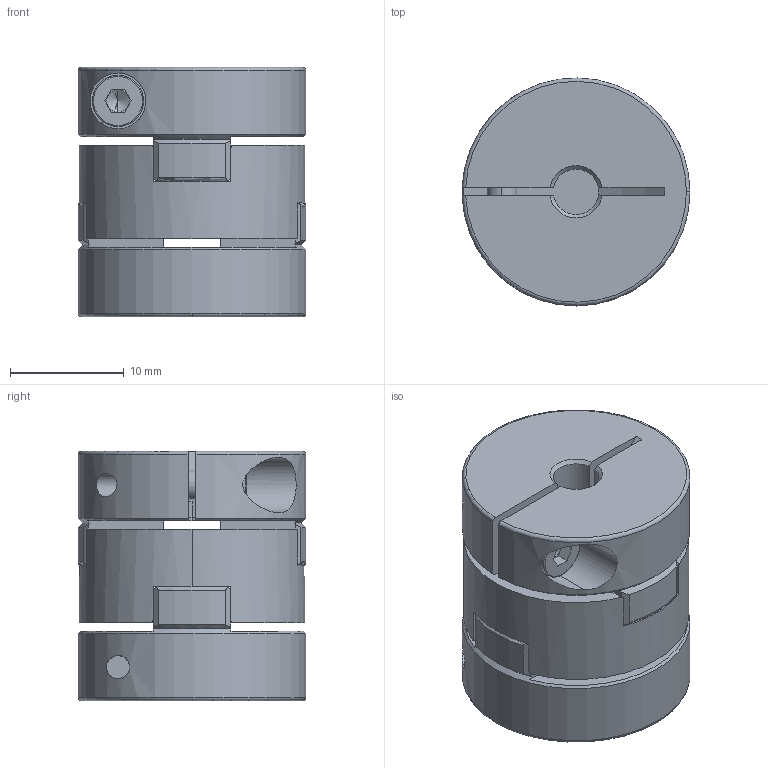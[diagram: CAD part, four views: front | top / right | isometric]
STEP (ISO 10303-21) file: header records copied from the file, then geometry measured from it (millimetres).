
FILE_DESCRIPTION (( 'STEP AP203' ), '1' );
FILE_NAME ('SOHM-20C-4X8_203.STEP', '2013-01-20T07:24:05', ( '' ), ( '' ), 'SwSTEP 2.0', 'SolidWorks 2012', '' );
FILE_SCHEMA (( 'CONFIG_CONTROL_DESIGN' ));
Length unit declared in the file: millimetre
Products named in the file (1): SOHM-20C-4X8_203
Bounding box: 20 x 20 x 21.9 mm (x, y, z)
Volume: 5408.9 mm3; surface area: 3842.7 mm2
Topology: 1 solids, 1 shells, 193 faces, 536 edges, 333 vertices
Faces by surface type: plane 86, cylinder 60, torus 24, cone 23
Entity records: 6608 total; most frequent: CARTESIAN_POINT 1616, ORIENTED_EDGE 1064, DIRECTION 1011, EDGE_CURVE 532, AXIS2_PLACEMENT_3D 376, VERTEX_POINT 333, VECTOR 259, LINE 259
